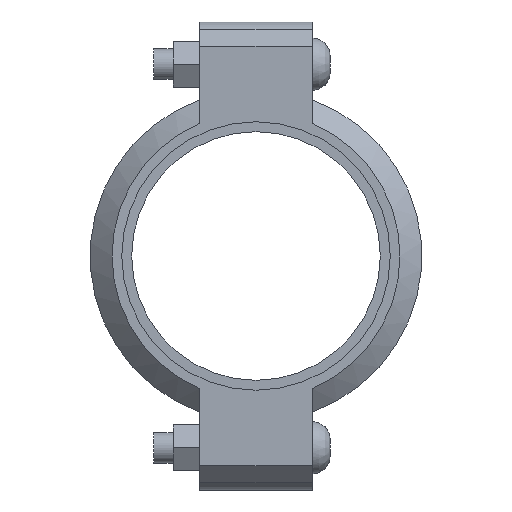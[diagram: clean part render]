
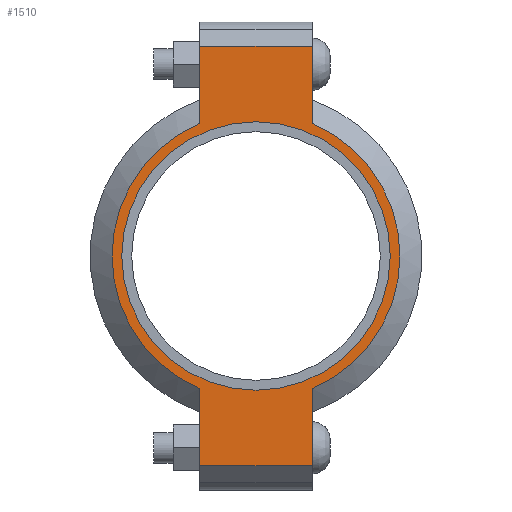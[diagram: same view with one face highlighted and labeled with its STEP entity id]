
A CAD part, left-side view. The second image highlights one B-rep face of the part: STEP entity #1510.
In plain terms, the highlighted planar face has unit normal (-1, 0, 0) as drawn and (0, 0, 1) by its records, which use the part's own axes.
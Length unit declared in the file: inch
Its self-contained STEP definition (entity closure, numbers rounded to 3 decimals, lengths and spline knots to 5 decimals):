
#134=LINE('',#2635,#227);
#142=LINE('',#2671,#235);
#149=LINE('',#2692,#242);
#158=LINE('',#2724,#251);
#159=LINE('',#2728,#252);
#160=LINE('',#2730,#253);
#227=VECTOR('',#2155,0.3937);
#235=VECTOR('',#2171,0.3937);
#242=VECTOR('',#2190,0.3937);
#251=VECTOR('',#2215,0.3937);
#252=VECTOR('',#2220,0.3937);
#253=VECTOR('',#2221,0.3937);
#309=FACE_BOUND('',#487,.T.);
#381=FACE_OUTER_BOUND('',#486,.T.);
#486=EDGE_LOOP('',(#1251,#1252,#1253,#1254,#1255,#1256,#1257,#1258));
#487=EDGE_LOOP('',(#1259));
#559=CIRCLE('',#1729,2.75);
#585=CIRCLE('',#1788,2.95);
#586=CIRCLE('',#1789,2.95);
#651=VERTEX_POINT('',#2451);
#694=VERTEX_POINT('',#2632);
#695=VERTEX_POINT('',#2634);
#706=VERTEX_POINT('',#2666);
#707=VERTEX_POINT('',#2670);
#714=VERTEX_POINT('',#2689);
#715=VERTEX_POINT('',#2691);
#725=VERTEX_POINT('',#2727);
#726=VERTEX_POINT('',#2729);
#807=EDGE_CURVE('',#651,#651,#559,.T.);
#868=EDGE_CURVE('',#695,#694,#134,.T.);
#882=EDGE_CURVE('',#707,#706,#142,.T.);
#892=EDGE_CURVE('',#715,#714,#149,.T.);
#907=EDGE_CURVE('',#707,#694,#158,.T.);
#908=EDGE_CURVE('',#706,#715,#585,.T.);
#909=EDGE_CURVE('',#725,#714,#159,.T.);
#910=EDGE_CURVE('',#725,#726,#160,.T.);
#911=EDGE_CURVE('',#726,#695,#586,.T.);
#1251=ORIENTED_EDGE('',*,*,#907,.F.);
#1252=ORIENTED_EDGE('',*,*,#882,.T.);
#1253=ORIENTED_EDGE('',*,*,#908,.T.);
#1254=ORIENTED_EDGE('',*,*,#892,.T.);
#1255=ORIENTED_EDGE('',*,*,#909,.F.);
#1256=ORIENTED_EDGE('',*,*,#910,.T.);
#1257=ORIENTED_EDGE('',*,*,#911,.T.);
#1258=ORIENTED_EDGE('',*,*,#868,.T.);
#1259=ORIENTED_EDGE('',*,*,#807,.T.);
#1352=PLANE('',#1787);
#1510=ADVANCED_FACE('',(#381,#309),#1352,.T.);
#1729=AXIS2_PLACEMENT_3D('',#2453,#2031,#2032);
#1787=AXIS2_PLACEMENT_3D('',#2725,#2216,#2217);
#1788=AXIS2_PLACEMENT_3D('',#2726,#2218,#2219);
#1789=AXIS2_PLACEMENT_3D('',#2731,#2222,#2223);
#2031=DIRECTION('center_axis',(0.,0.,-1.));
#2032=DIRECTION('ref_axis',(-1.,0.,0.));
#2155=DIRECTION('',(-1.,0.,0.));
#2171=DIRECTION('',(1.,0.,0.));
#2190=DIRECTION('',(1.,0.,0.));
#2215=DIRECTION('',(0.,1.,0.));
#2216=DIRECTION('center_axis',(0.,0.,1.));
#2217=DIRECTION('ref_axis',(1.,0.,0.));
#2218=DIRECTION('center_axis',(0.,0.,1.));
#2219=DIRECTION('ref_axis',(-1.,0.,0.));
#2220=DIRECTION('',(0.,-1.,0.));
#2221=DIRECTION('',(-1.,0.,0.));
#2222=DIRECTION('center_axis',(0.,0.,1.));
#2223=DIRECTION('ref_axis',(-1.,0.,0.));
#2451=CARTESIAN_POINT('',(2.75,0.,1.065));
#2453=CARTESIAN_POINT('Origin',(0.,0.,1.065));
#2632=CARTESIAN_POINT('',(-4.295,1.15,1.065));
#2634=CARTESIAN_POINT('',(-2.71662,1.15,1.065));
#2635=CARTESIAN_POINT('',(-4.795,1.15,1.065));
#2666=CARTESIAN_POINT('',(-2.71662,-1.15,1.065));
#2670=CARTESIAN_POINT('',(-4.295,-1.15,1.065));
#2671=CARTESIAN_POINT('',(4.795,-1.15,1.065));
#2689=CARTESIAN_POINT('',(4.295,-1.15,1.065));
#2691=CARTESIAN_POINT('',(2.71662,-1.15,1.065));
#2692=CARTESIAN_POINT('',(4.795,-1.15,1.065));
#2724=CARTESIAN_POINT('',(-4.295,0.575,1.065));
#2725=CARTESIAN_POINT('Origin',(0.,0.,1.065));
#2726=CARTESIAN_POINT('Origin',(0.,0.,1.065));
#2727=CARTESIAN_POINT('',(4.295,1.15,1.065));
#2728=CARTESIAN_POINT('',(4.295,-0.575,1.065));
#2729=CARTESIAN_POINT('',(2.71662,1.15,1.065));
#2730=CARTESIAN_POINT('',(-4.795,1.15,1.065));
#2731=CARTESIAN_POINT('Origin',(0.,0.,1.065));
